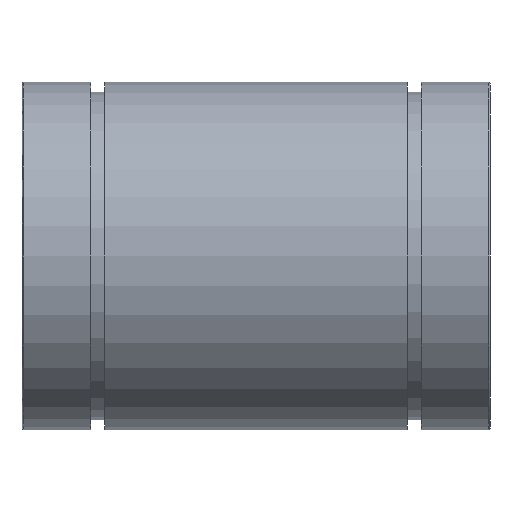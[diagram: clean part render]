
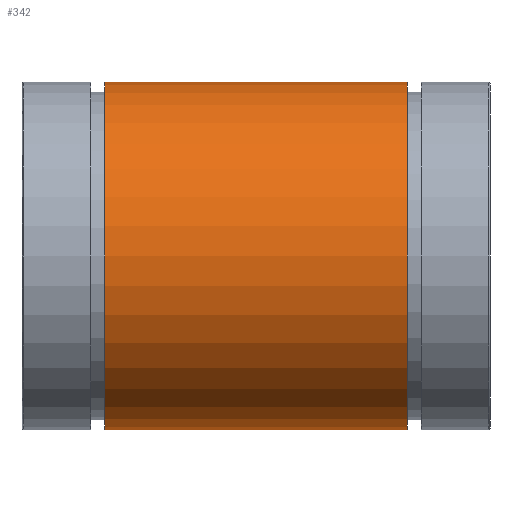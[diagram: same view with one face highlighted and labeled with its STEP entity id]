
A CAD part, front view. The second image highlights one B-rep face of the part: STEP entity #342.
In plain terms, the highlighted cylindrical face has radius 26 mm (diameter 52 mm), a partial arc.
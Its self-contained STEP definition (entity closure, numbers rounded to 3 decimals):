
#22 = CARTESIAN_POINT ( 'NONE',  ( -70.834, 0., -26. ) ) ;
#57 = EDGE_CURVE ( 'NONE', #190, #240, #108, .T. ) ;
#80 = DIRECTION ( 'NONE',  ( -1., 0., 0. ) ) ;
#103 = DIRECTION ( 'NONE',  ( -1., 0., 0. ) ) ;
#108 = CIRCLE ( 'NONE', #375, 26. ) ;
#144 = ORIENTED_EDGE ( 'NONE', *, *, #396, .T. ) ;
#155 = DIRECTION ( 'NONE',  ( -1., 0., 0. ) ) ;
#175 = CARTESIAN_POINT ( 'NONE',  ( -22.65, 0., 0. ) ) ;
#179 = CARTESIAN_POINT ( 'NONE',  ( -22.65, 0., -26. ) ) ;
#190 = VERTEX_POINT ( 'NONE', #605 ) ;
#195 = EDGE_CURVE ( 'NONE', #622, #519, #407, .T. ) ;
#196 = ORIENTED_EDGE ( 'NONE', *, *, #561, .F. ) ;
#223 = DIRECTION ( 'NONE',  ( 0., 0., 1. ) ) ;
#228 = EDGE_LOOP ( 'NONE', ( #196, #414, #144, #321 ) ) ;
#235 = DIRECTION ( 'NONE',  ( -1., 0., 0. ) ) ;
#240 = VERTEX_POINT ( 'NONE', #478 ) ;
#244 = CYLINDRICAL_SURFACE ( 'NONE', #356, 26. ) ;
#261 = LINE ( 'NONE', #22, #358 ) ;
#262 = DIRECTION ( 'NONE',  ( 0., 0., 1. ) ) ;
#288 = DIRECTION ( 'NONE',  ( 0., 0., 1. ) ) ;
#294 = VECTOR ( 'NONE', #155, 1000. ) ;
#303 = DIRECTION ( 'NONE',  ( -1., 0., 0. ) ) ;
#313 = CARTESIAN_POINT ( 'NONE',  ( 22.65, 0., 0. ) ) ;
#321 = ORIENTED_EDGE ( 'NONE', *, *, #195, .F. ) ;
#342 = ADVANCED_FACE ( 'NONE', ( #483 ), #244, .T. ) ;
#356 = AXIS2_PLACEMENT_3D ( 'NONE', #569, #103, #288 ) ;
#358 = VECTOR ( 'NONE', #80, 1000. ) ;
#375 = AXIS2_PLACEMENT_3D ( 'NONE', #313, #303, #262 ) ;
#382 = CARTESIAN_POINT ( 'NONE',  ( -70.834, 0., 26. ) ) ;
#385 = LINE ( 'NONE', #382, #294 ) ;
#396 = EDGE_CURVE ( 'NONE', #240, #519, #385, .T. ) ;
#399 = CARTESIAN_POINT ( 'NONE',  ( -22.65, 0., 26. ) ) ;
#407 = CIRCLE ( 'NONE', #567, 26. ) ;
#414 = ORIENTED_EDGE ( 'NONE', *, *, #57, .T. ) ;
#478 = CARTESIAN_POINT ( 'NONE',  ( 22.65, 0., 26. ) ) ;
#483 = FACE_OUTER_BOUND ( 'NONE', #228, .T. ) ;
#519 = VERTEX_POINT ( 'NONE', #399 ) ;
#561 = EDGE_CURVE ( 'NONE', #190, #622, #261, .T. ) ;
#567 = AXIS2_PLACEMENT_3D ( 'NONE', #175, #235, #223 ) ;
#569 = CARTESIAN_POINT ( 'NONE',  ( -70.834, 0., 0. ) ) ;
#605 = CARTESIAN_POINT ( 'NONE',  ( 22.65, 0., -26. ) ) ;
#622 = VERTEX_POINT ( 'NONE', #179 ) ;
